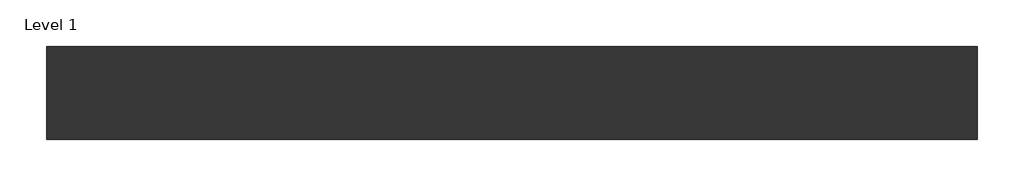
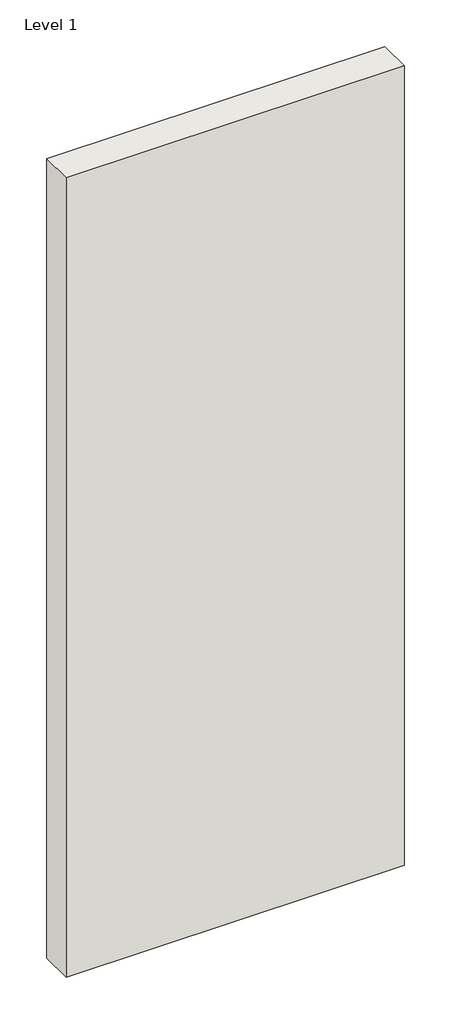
# One storey: 1 wall.
"""IFC4 building model written with IfcOpenShell, lengths in millimetres."""

import ifcopenshell
import ifcopenshell.guid

model = None  # the IFC model being written
_history = None  # IfcOwnerHistory: only IFC2X3 demands one
_inside = {}  # id of a spatial element -> (the spatial element, [elements in it])
_under = {}  # id of a project, library or spatial element -> (it, [spatial elements below it])
_declared = {}  # id of a project -> (the project, [libraries it declares])
_typed = {}  # id of a type object -> (the type object, [elements of that type])
_made_of = {}  # id of a material, layer set ... -> (it, [elements and type objects made of it])


def new_model(schema):
    """Start an empty IFC model of exactly this schema.

    Asked for "IFC4X3", IfcOpenShell would pick the latest addendum, in which some entities
    have other attributes; the version numbers below select the first issue.
    IFC2X3 requires an IfcOwnerHistory on every rooted entity: one is made here for all.
    """
    global model, _history
    if schema == "IFC4X3":
        model = ifcopenshell.file(schema_version=(4, 3, 0, 0))
    else:
        model = ifcopenshell.file(schema=schema)
    _inside.clear()
    _under.clear()
    _declared.clear()
    _typed.clear()
    _made_of.clear()
    _history = None
    if model.schema == "IFC2X3":
        org = make("IfcOrganization", Name="unknown")
        user = make(
            "IfcPersonAndOrganization",
            ThePerson=make("IfcPerson", FamilyName="unknown"),
            TheOrganization=org,
        )
        app = make(
            "IfcApplication",
            ApplicationDeveloper=org,
            Version="unknown",
            ApplicationFullName="unknown",
            ApplicationIdentifier="unknown",
        )
        _history = make(
            "IfcOwnerHistory",
            OwningUser=user,
            OwningApplication=app,
            ChangeAction="ADDED",
            CreationDate=0,
        )
    return model


def make(cls, **values):
    """One entity of the class cls with the attributes given. An attribute that is None is left unset."""
    return model.create_entity(
        cls, **{name: value for name, value in values.items() if value is not None}
    )


def rooted(cls, **values):
    """An entity with a GlobalId (a new one), such as an element, a storey or a relation."""
    return make(cls, GlobalId=ifcopenshell.guid.new(), OwnerHistory=_history, **values)


def si_unit(unit_type, name, prefix=None):
    """IfcSIUnit, for example si_unit("LENGTHUNIT", "METRE", prefix="MILLI")."""
    return make("IfcSIUnit", UnitType=unit_type, Prefix=prefix, Name=name)


def assignment(units):
    """IfcUnitAssignment: the units of a project."""
    return None if units is None else make("IfcUnitAssignment", Units=units)


def point(xyz):
    """IfcCartesianPoint."""
    return None if xyz is None else make("IfcCartesianPoint", Coordinates=xyz)


def direction(xyz):
    """IfcDirection."""
    return None if xyz is None else make("IfcDirection", DirectionRatios=xyz)


def frame(location, z_axis=None, x_axis=None):
    """IfcAxis2Placement3D, a coordinate frame: its origin and axes. An axis left out is left unset."""
    return make(
        "IfcAxis2Placement3D",
        Location=point(location),
        Axis=direction(z_axis),
        RefDirection=direction(x_axis),
    )


def origin():
    """The frame at (0, 0, 0) with its axes left unset."""
    return frame((0.0, 0.0, 0.0))


def origin_with_axes():
    """The frame at (0, 0, 0) with the z axis (0, 0, 1) and the x axis (1, 0, 0) written out."""
    return frame((0.0, 0.0, 0.0), z_axis=(0.0, 0.0, 1.0), x_axis=(1.0, 0.0, 0.0))


def place(relative_to, where):
    """IfcLocalPlacement: puts the frame where relative to a parent placement (None: the world)."""
    return make(
        "IfcLocalPlacement", PlacementRelTo=relative_to, RelativePlacement=where
    )


def context(
    kind, dimensions, precision=None, world=None, true_north=None, identifier=None
):
    """IfcGeometricRepresentationContext, for example the 3D "Model" context."""
    return make(
        "IfcGeometricRepresentationContext",
        ContextIdentifier=identifier,
        ContextType=kind,
        CoordinateSpaceDimension=dimensions,
        Precision=precision,
        WorldCoordinateSystem=world,
        TrueNorth=true_north,
    )


def project(units=None, contexts=None):
    """IfcProject with its units and contexts."""
    return rooted(
        "IfcProject",
        Name="project",
        RepresentationContexts=contexts,
        UnitsInContext=assignment(units),
    )


def spatial(cls, under=None, at=None, **own):
    """A site, building, storey or space (cls), placed at a placement, below another one or the project."""
    s = rooted(cls, ObjectPlacement=at, **own)
    if under is not None:
        _under.setdefault(under.id(), (under, []))[1].append(s)
    return s


def polyline(points):
    """IfcPolyline through the points."""
    return make("IfcPolyline", Points=[point(p) for p in points])


def outline(outer, holes=None, kind="AREA"):
    """IfcArbitraryClosedProfileDef: a profile drawn as a closed curve; with holes, ...WithVoids."""
    if holes is None:
        return make("IfcArbitraryClosedProfileDef", ProfileType=kind, OuterCurve=outer)
    return make(
        "IfcArbitraryProfileDefWithVoids",
        ProfileType=kind,
        OuterCurve=outer,
        InnerCurves=holes,
    )


def extrude(swept, where, along, depth):
    """IfcExtrudedAreaSolid: the profile swept, set in the frame where, extruded along a direction by depth."""
    return make(
        "IfcExtrudedAreaSolid",
        SweptArea=swept,
        Position=where,
        ExtrudedDirection=direction(along),
        Depth=depth,
    )


def shape(context_of_items, identifier, shape_type, items):
    """IfcShapeRepresentation: the items that make up one representation, for example the "Body"."""
    return make(
        "IfcShapeRepresentation",
        ContextOfItems=context_of_items,
        RepresentationIdentifier=identifier,
        RepresentationType=shape_type,
        Items=items,
    )


def made_of(thing, what):
    """Note that an element or type object is made of a material, layer set ...; save() writes the relation."""
    if what is not None:
        _made_of.setdefault(what.id(), (what, []))[1].append(thing)
    return thing


def element(
    cls,
    number,
    at=None,
    inside=None,
    cuts=None,
    type_object=None,
    material=None,
    context=None,
    identifier="Body",
    shape_type=None,
    held_by="IfcProductDefinitionShape",
    body=None,
    shapes=None,
    **own,
):
    """One element of the class cls, such as IfcWall. Its Tag is "e" and its number.

    at: its placement. inside: the storey or other place that contains it. cuts: it is an
    opening in that element (IfcRelVoidsElement). A single representation is given by context,
    identifier, shape_type and body (its items); several are given by shapes. held_by: the class
    of the entity that holds the representations. save() writes the other relations.
    """
    e = rooted(cls, Tag="e%d" % number, ObjectPlacement=at, **own)
    if body is not None:
        shapes = [shape(context, identifier, shape_type, body)]
    if shapes is not None:
        e.Representation = make(held_by, Representations=shapes)
    if inside is not None:
        _inside.setdefault(inside.id(), (inside, []))[1].append(e)
    if cuts is not None:
        rooted(
            "IfcRelVoidsElement", RelatingBuildingElement=cuts, RelatedOpeningElement=e
        )
    if type_object is not None:
        _typed.setdefault(type_object.id(), (type_object, []))[1].append(e)
    return made_of(e, material)


def aggregate(whole, parts):
    """IfcRelAggregates: a whole, such as a stair, and the parts it consists of."""
    return rooted("IfcRelAggregates", RelatingObject=whole, RelatedObjects=parts)


def save(model, path):
    """Write the relations noted so far, then the file.

    IfcRelAggregates (storeys below a building ...), IfcRelContainedInSpatialStructure (elements
    in a storey), IfcRelDefinesByType, IfcRelAssociatesMaterial and IfcRelDeclares: one each for
    every whole, place, type object, material and project.
    """
    for whole, parts in _under.values():
        aggregate(whole, parts)
    for where, things in _inside.values():
        rooted(
            "IfcRelContainedInSpatialStructure",
            RelatedElements=things,
            RelatingStructure=where,
        )
    for kind, things in _typed.values():
        rooted("IfcRelDefinesByType", RelatedObjects=things, RelatingType=kind)
    for what, things in _made_of.values():
        rooted("IfcRelAssociatesMaterial", RelatedObjects=things, RelatingMaterial=what)
    for by, libraries in _declared.values():
        rooted("IfcRelDeclares", RelatingContext=by, RelatedDefinitions=libraries)
    model.write(path)


model = new_model("IFC4")

# Units and contexts
model_context = context("Model", 3, world=origin())
ifc_project = project(units=[si_unit("LENGTHUNIT", "METRE", prefix="MILLI")], contexts=[model_context])

# Site, building, storey
site = spatial("IfcSite", under=ifc_project)
building = spatial("IfcBuilding", under=site)
storey = spatial("IfcBuildingStorey", under=building, Name="Level 1", Elevation=0.0)

# Wall
placement = place(None, origin())
element("IfcWall", 1, ObjectType="RIGIPS - 3.22.00 - EI 30, REI 30 - 4000 - 12dB", at=placement, inside=storey, context=model_context, shape_type="SweptSolid", body=[
    extrude(outline(polyline([(1000.0, -50.0), (0.0, -50.0), (0.0, 50.0), (1000.0, 50.0), (1000.0, -50.0)])), origin_with_axes(), (0.0, 0.0, 1.0), 2500.0),
])

save(model, "model.ifc")
